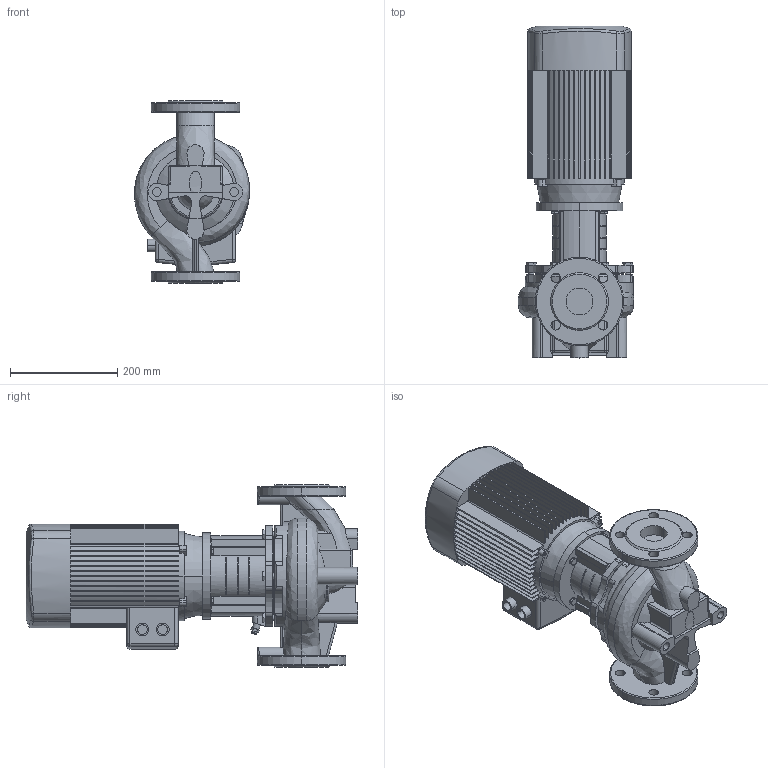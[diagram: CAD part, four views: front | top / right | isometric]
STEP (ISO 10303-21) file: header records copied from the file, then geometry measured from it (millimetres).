
FILE_DESCRIPTION(/* description */ (''),/* implementation_level */ '2;1');
FILE_NAME(/* name */ 'TD50-24-2安装尺寸图.stp',/* time_stamp */ '2026-09-07T15:16:56+08:00',/* author */ (''),/* organization */ (''),/* preprocessor_version */ 'ST-DEVELOPER v16.7',/* originating_system */ 'SIEMENS PLM Software NX 1847',/* authorisation */ '');
FILE_SCHEMA (('AP203_CONFIGURATION_CONTROLLED_3D_DESIGN_OF_MECHANICAL_PARTS_AND_ASSEMBLIES_MIM_LF { 1 0 10303 403 2 1 2}'));
Length unit declared in the file: millimetre
Products named in the file (1): Admi55F8EAC4z0xf
Bounding box: 214.95 x 619.5 x 340 mm (x, y, z)
Volume: 15906640.4 mm3; surface area: 1013954.2 mm2
Topology: 1 solids, 7 shells, 908 faces, 2393 edges, 1536 vertices
Faces by surface type: plane 445, cylinder 269, cone 79, torus 59, bspline 50, sphere 6
Full cylindrical faces by diameter (mm): 7.76 x4, 8 x1, 9.732 x6, 10 x1, 11.63 x4, 12.9 x1, 14.63 x6
Entity records: 35304 total; most frequent: CARTESIAN_POINT 13214, ORIENTED_EDGE 4662, DIRECTION 4526, EDGE_CURVE 2331, AXIS2_PLACEMENT_3D 1750, VERTEX_POINT 1517, EDGE_LOOP 1034, LINE 1026
